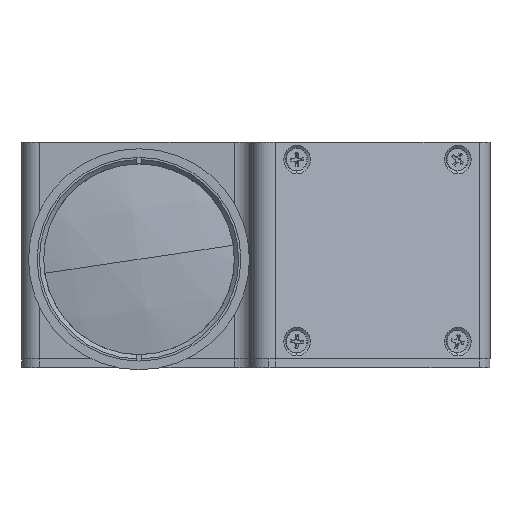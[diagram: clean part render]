
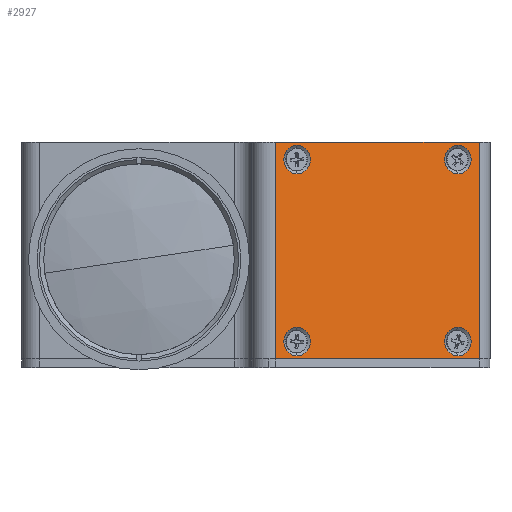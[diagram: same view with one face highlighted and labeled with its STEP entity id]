
A CAD part, left-side view. The second image highlights one B-rep face of the part: STEP entity #2927.
In plain terms, the highlighted planar face has unit normal (-0.927, -0.375, 0).
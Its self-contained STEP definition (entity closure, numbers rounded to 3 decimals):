
#31 = ORIENTED_EDGE ( 'NONE', *, *, #12083, .F. ) ;
#43 = EDGE_LOOP ( 'NONE', ( #1849, #14569 ) ) ;
#569 = PLANE ( 'NONE',  #12837 ) ;
#575 = DIRECTION ( 'NONE',  ( -0.927, -0.375, 0. ) ) ;
#658 = VECTOR ( 'NONE', #14193, 1000. ) ;
#781 = DIRECTION ( 'NONE',  ( 0., 0., 1. ) ) ;
#891 = CARTESIAN_POINT ( 'NONE',  ( 67.03, -73.583, -19. ) ) ;
#1044 = DIRECTION ( 'NONE',  ( 0., 0., 1. ) ) ;
#1123 = ORIENTED_EDGE ( 'NONE', *, *, #8800, .F. ) ;
#1227 = FACE_BOUND ( 'NONE', #7910, .T. ) ;
#1587 = FACE_BOUND ( 'NONE', #14362, .T. ) ;
#1703 = LINE ( 'NONE', #8159, #4398 ) ;
#1762 = DIRECTION ( 'NONE',  ( 0., 0., 1. ) ) ;
#1774 = ORIENTED_EDGE ( 'NONE', *, *, #10513, .F. ) ;
#1849 = ORIENTED_EDGE ( 'NONE', *, *, #11495, .F. ) ;
#1914 = CARTESIAN_POINT ( 'NONE',  ( 50.035, -31.516, 27. ) ) ;
#2022 = DIRECTION ( 'NONE',  ( 0., 0., 1. ) ) ;
#2027 = CIRCLE ( 'NONE', #2835, 3.3 ) ;
#2110 = CARTESIAN_POINT ( 'NONE',  ( 52.046, -36.495, 19.7 ) ) ;
#2357 = VERTEX_POINT ( 'NONE', #4177 ) ;
#2417 = AXIS2_PLACEMENT_3D ( 'NONE', #4644, #12490, #5774 ) ;
#2493 = AXIS2_PLACEMENT_3D ( 'NONE', #14542, #7857, #1044 ) ;
#2835 = AXIS2_PLACEMENT_3D ( 'NONE', #6147, #13974, #7275 ) ;
#2927 = ADVANCED_FACE ( 'NONE', ( #7289, #1227, #1587, #4630, #12893 ), #569, .T. ) ;
#3019 = ORIENTED_EDGE ( 'NONE', *, *, #10491, .T. ) ;
#3107 = AXIS2_PLACEMENT_3D ( 'NONE', #6338, #14164, #7475 ) ;
#3696 = LINE ( 'NONE', #4083, #658 ) ;
#3874 = CARTESIAN_POINT ( 'NONE',  ( 52.046, -36.495, -15.7 ) ) ;
#3979 = VERTEX_POINT ( 'NONE', #9280 ) ;
#4083 = CARTESIAN_POINT ( 'NONE',  ( 71.526, -84.709, 27. ) ) ;
#4177 = CARTESIAN_POINT ( 'NONE',  ( 50.035, -31.516, -23. ) ) ;
#4202 = CIRCLE ( 'NONE', #2493, 3.3 ) ;
#4230 = VERTEX_POINT ( 'NONE', #13499 ) ;
#4398 = VECTOR ( 'NONE', #9284, 1000. ) ;
#4619 = CIRCLE ( 'NONE', #6282, 3.3 ) ;
#4630 = FACE_BOUND ( 'NONE', #43, .T. ) ;
#4632 = CARTESIAN_POINT ( 'NONE',  ( 67.03, -73.583, 23. ) ) ;
#4644 = CARTESIAN_POINT ( 'NONE',  ( 67.03, -73.583, 23. ) ) ;
#4723 = CARTESIAN_POINT ( 'NONE',  ( 67.03, -73.583, -15.7 ) ) ;
#5249 = AXIS2_PLACEMENT_3D ( 'NONE', #14292, #7608, #781 ) ;
#5674 = CIRCLE ( 'NONE', #5783, 3.3 ) ;
#5766 = DIRECTION ( 'NONE',  ( 0., 0., 1. ) ) ;
#5774 = DIRECTION ( 'NONE',  ( 0., 0., 1. ) ) ;
#5783 = AXIS2_PLACEMENT_3D ( 'NONE', #7392, #575, #8529 ) ;
#5926 = VERTEX_POINT ( 'NONE', #11702 ) ;
#6143 = CIRCLE ( 'NONE', #2417, 3.3 ) ;
#6147 = CARTESIAN_POINT ( 'NONE',  ( 52.046, -36.495, -19. ) ) ;
#6218 = ORIENTED_EDGE ( 'NONE', *, *, #10886, .F. ) ;
#6282 = AXIS2_PLACEMENT_3D ( 'NONE', #891, #8825, #2022 ) ;
#6316 = DIRECTION ( 'NONE',  ( 0., 0., 1. ) ) ;
#6338 = CARTESIAN_POINT ( 'NONE',  ( 52.046, -36.495, 23. ) ) ;
#6428 = CARTESIAN_POINT ( 'NONE',  ( 52.046, -36.495, 26.3 ) ) ;
#6629 = ORIENTED_EDGE ( 'NONE', *, *, #11703, .F. ) ;
#6723 = AXIS2_PLACEMENT_3D ( 'NONE', #4632, #12482, #5766 ) ;
#6743 = LINE ( 'NONE', #13535, #12704 ) ;
#7055 = LINE ( 'NONE', #14147, #13029 ) ;
#7219 = VERTEX_POINT ( 'NONE', #1914 ) ;
#7275 = DIRECTION ( 'NONE',  ( 0., 0., 1. ) ) ;
#7289 = FACE_BOUND ( 'NONE', #7727, .T. ) ;
#7392 = CARTESIAN_POINT ( 'NONE',  ( 52.046, -36.495, -19. ) ) ;
#7475 = DIRECTION ( 'NONE',  ( 0., 0., 1. ) ) ;
#7608 = DIRECTION ( 'NONE',  ( -0.927, -0.375, 0. ) ) ;
#7727 = EDGE_LOOP ( 'NONE', ( #31, #9265 ) ) ;
#7852 = CARTESIAN_POINT ( 'NONE',  ( 69.017, -78.498, -23. ) ) ;
#7857 = DIRECTION ( 'NONE',  ( -0.927, -0.375, 0. ) ) ;
#7910 = EDGE_LOOP ( 'NONE', ( #9330, #1123 ) ) ;
#8159 = CARTESIAN_POINT ( 'NONE',  ( 71.526, -84.709, -23. ) ) ;
#8461 = EDGE_CURVE ( 'NONE', #11887, #3979, #12538, .T. ) ;
#8529 = DIRECTION ( 'NONE',  ( 0., 0., 1. ) ) ;
#8532 = VERTEX_POINT ( 'NONE', #4723 ) ;
#8567 = DIRECTION ( 'NONE',  ( -0.927, -0.375, 0. ) ) ;
#8800 = EDGE_CURVE ( 'NONE', #4230, #8532, #4619, .T. ) ;
#8825 = DIRECTION ( 'NONE',  ( -0.927, -0.375, 0. ) ) ;
#8891 = VERTEX_POINT ( 'NONE', #7852 ) ;
#9153 = EDGE_CURVE ( 'NONE', #12807, #13465, #5674, .T. ) ;
#9210 = VERTEX_POINT ( 'NONE', #6428 ) ;
#9265 = ORIENTED_EDGE ( 'NONE', *, *, #8461, .F. ) ;
#9280 = CARTESIAN_POINT ( 'NONE',  ( 67.03, -73.583, 26.3 ) ) ;
#9284 = DIRECTION ( 'NONE',  ( -0.375, 0.927, 0. ) ) ;
#9330 = ORIENTED_EDGE ( 'NONE', *, *, #11999, .F. ) ;
#9549 = EDGE_CURVE ( 'NONE', #13094, #9210, #11823, .T. ) ;
#9701 = EDGE_CURVE ( 'NONE', #7219, #2357, #6743, .T. ) ;
#9863 = CARTESIAN_POINT ( 'NONE',  ( 67.03, -73.583, 19.7 ) ) ;
#10491 = EDGE_CURVE ( 'NONE', #8891, #5926, #7055, .T. ) ;
#10513 = EDGE_CURVE ( 'NONE', #7219, #5926, #3696, .T. ) ;
#10616 = ORIENTED_EDGE ( 'NONE', *, *, #9701, .T. ) ;
#10747 = CARTESIAN_POINT ( 'NONE',  ( 59.669, -55.363, 2. ) ) ;
#10880 = CIRCLE ( 'NONE', #3107, 3.3 ) ;
#10886 = EDGE_CURVE ( 'NONE', #8891, #2357, #1703, .T. ) ;
#11264 = DIRECTION ( 'NONE',  ( 0., 0., -1. ) ) ;
#11495 = EDGE_CURVE ( 'NONE', #9210, #13094, #10880, .T. ) ;
#11702 = CARTESIAN_POINT ( 'NONE',  ( 69.017, -78.498, 27. ) ) ;
#11703 = EDGE_CURVE ( 'NONE', #13465, #12807, #2027, .T. ) ;
#11823 = CIRCLE ( 'NONE', #5249, 3.3 ) ;
#11887 = VERTEX_POINT ( 'NONE', #9863 ) ;
#11999 = EDGE_CURVE ( 'NONE', #8532, #4230, #4202, .T. ) ;
#12083 = EDGE_CURVE ( 'NONE', #3979, #11887, #6143, .T. ) ;
#12482 = DIRECTION ( 'NONE',  ( -0.927, -0.375, 0. ) ) ;
#12490 = DIRECTION ( 'NONE',  ( -0.927, -0.375, 0. ) ) ;
#12538 = CIRCLE ( 'NONE', #6723, 3.3 ) ;
#12704 = VECTOR ( 'NONE', #11264, 1000. ) ;
#12807 = VERTEX_POINT ( 'NONE', #13131 ) ;
#12811 = EDGE_LOOP ( 'NONE', ( #6218, #3019, #1774, #10616 ) ) ;
#12837 = AXIS2_PLACEMENT_3D ( 'NONE', #10747, #8567, #1762 ) ;
#12893 = FACE_OUTER_BOUND ( 'NONE', #12811, .T. ) ;
#13029 = VECTOR ( 'NONE', #6316, 1000. ) ;
#13094 = VERTEX_POINT ( 'NONE', #2110 ) ;
#13131 = CARTESIAN_POINT ( 'NONE',  ( 52.046, -36.495, -22.3 ) ) ;
#13325 = ORIENTED_EDGE ( 'NONE', *, *, #9153, .F. ) ;
#13465 = VERTEX_POINT ( 'NONE', #3874 ) ;
#13499 = CARTESIAN_POINT ( 'NONE',  ( 67.03, -73.583, -22.3 ) ) ;
#13535 = CARTESIAN_POINT ( 'NONE',  ( 50.035, -31.516, 2. ) ) ;
#13974 = DIRECTION ( 'NONE',  ( -0.927, -0.375, 0. ) ) ;
#14147 = CARTESIAN_POINT ( 'NONE',  ( 69.017, -78.498, 2. ) ) ;
#14164 = DIRECTION ( 'NONE',  ( -0.927, -0.375, 0. ) ) ;
#14193 = DIRECTION ( 'NONE',  ( 0.375, -0.927, 0. ) ) ;
#14292 = CARTESIAN_POINT ( 'NONE',  ( 52.046, -36.495, 23. ) ) ;
#14362 = EDGE_LOOP ( 'NONE', ( #6629, #13325 ) ) ;
#14542 = CARTESIAN_POINT ( 'NONE',  ( 67.03, -73.583, -19. ) ) ;
#14569 = ORIENTED_EDGE ( 'NONE', *, *, #9549, .F. ) ;
